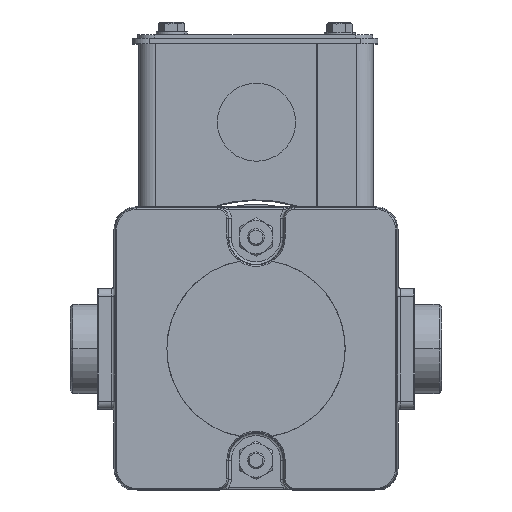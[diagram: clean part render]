
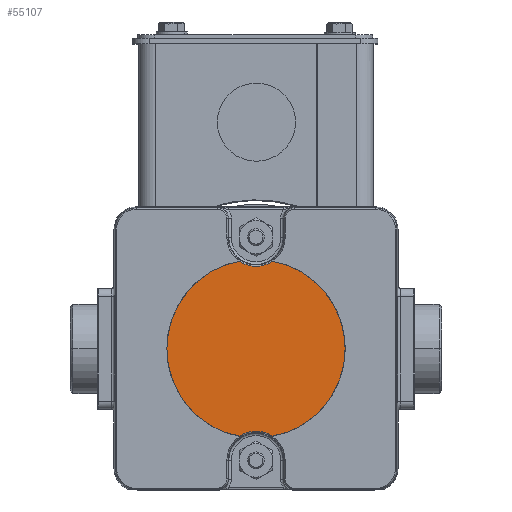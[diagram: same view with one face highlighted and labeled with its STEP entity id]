
A CAD part, top view. The second image highlights one B-rep face of the part: STEP entity #55107.
In plain terms, the highlighted planar face has unit normal (0, 0, 1).
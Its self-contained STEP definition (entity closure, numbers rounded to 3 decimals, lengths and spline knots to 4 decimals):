
#132 = DIRECTION ( 'NONE',  ( 1., 0., 0. ) ) ;
#972 = DIRECTION ( 'NONE',  ( 1., 0., 0. ) ) ;
#3466 = DIRECTION ( 'NONE',  ( 1., 0., 0. ) ) ;
#4057 = DIRECTION ( 'NONE',  ( 1., 0., 0. ) ) ;
#8350 = ORIENTED_EDGE ( 'NONE', *, *, #14171, .T. ) ;
#8956 = DIRECTION ( 'NONE',  ( 0., 0., -1. ) ) ;
#9539 = CARTESIAN_POINT ( 'NONE',  ( 0., 0., 9.4555 ) ) ;
#10705 = CARTESIAN_POINT ( 'NONE',  ( -0.1861, -0.9805, 9.4555 ) ) ;
#12573 = EDGE_CURVE ( 'NONE', #73153, #69365, #12687, .T. ) ;
#12687 = CIRCLE ( 'NONE', #27372, 0.3275 ) ;
#14171 = EDGE_CURVE ( 'NONE', #69365, #71252, #65148, .T. ) ;
#14537 = AXIS2_PLACEMENT_3D ( 'NONE', #33833, #39850, #132 ) ;
#14826 = DIRECTION ( 'NONE',  ( 0., 0., 1. ) ) ;
#21850 = ORIENTED_EDGE ( 'NONE', *, *, #73851, .T. ) ;
#24018 = CARTESIAN_POINT ( 'NONE',  ( 0., -1.25, 9.4555 ) ) ;
#25849 = DIRECTION ( 'NONE',  ( 1., 0., 0. ) ) ;
#26701 = FACE_OUTER_BOUND ( 'NONE', #35118, .T. ) ;
#27364 = AXIS2_PLACEMENT_3D ( 'NONE', #65520, #14826, #25849 ) ;
#27372 = AXIS2_PLACEMENT_3D ( 'NONE', #24018, #35287, #35761 ) ;
#28113 = CIRCLE ( 'NONE', #45128, 0.3275 ) ;
#29723 = CARTESIAN_POINT ( 'NONE',  ( 0., 0., 9.4555 ) ) ;
#30176 = PLANE ( 'NONE',  #69509 ) ;
#33833 = CARTESIAN_POINT ( 'NONE',  ( 0., 0., 9.4555 ) ) ;
#35118 = EDGE_LOOP ( 'NONE', ( #51962, #56679, #21850, #59706, #8350 ) ) ;
#35287 = DIRECTION ( 'NONE',  ( 0., 0., -1. ) ) ;
#35761 = DIRECTION ( 'NONE',  ( 1., 0., 0. ) ) ;
#35974 = VERTEX_POINT ( 'NONE', #47050 ) ;
#37695 = CARTESIAN_POINT ( 'NONE',  ( 0.1861, 0.9805, 9.4555 ) ) ;
#37797 = CIRCLE ( 'NONE', #27364, 0.998 ) ;
#38580 = CARTESIAN_POINT ( 'NONE',  ( -0.1861, 0.9805, 9.4555 ) ) ;
#39850 = DIRECTION ( 'NONE',  ( 0., 0., 1. ) ) ;
#41458 = DIRECTION ( 'NONE',  ( 0., 0., 1. ) ) ;
#42962 = CARTESIAN_POINT ( 'NONE',  ( 0., 1.25, 9.4555 ) ) ;
#45128 = AXIS2_PLACEMENT_3D ( 'NONE', #42962, #8956, #3466 ) ;
#47049 = VERTEX_POINT ( 'NONE', #38580 ) ;
#47050 = CARTESIAN_POINT ( 'NONE',  ( -0.998, 0., 9.4555 ) ) ;
#51962 = ORIENTED_EDGE ( 'NONE', *, *, #65395, .T. ) ;
#52966 = CARTESIAN_POINT ( 'NONE',  ( 0.1861, -0.9805, 9.4555 ) ) ;
#53036 = EDGE_CURVE ( 'NONE', #47049, #35974, #37797, .T. ) ;
#55107 = ADVANCED_FACE ( 'NONE', ( #26701 ), #30176, .T. ) ;
#55254 = CIRCLE ( 'NONE', #58611, 0.998 ) ;
#56679 = ORIENTED_EDGE ( 'NONE', *, *, #53036, .T. ) ;
#58611 = AXIS2_PLACEMENT_3D ( 'NONE', #9539, #73201, #4057 ) ;
#59706 = ORIENTED_EDGE ( 'NONE', *, *, #12573, .T. ) ;
#65148 = CIRCLE ( 'NONE', #14537, 0.998 ) ;
#65395 = EDGE_CURVE ( 'NONE', #71252, #47049, #28113, .T. ) ;
#65520 = CARTESIAN_POINT ( 'NONE',  ( 0., 0., 9.4555 ) ) ;
#69365 = VERTEX_POINT ( 'NONE', #52966 ) ;
#69509 = AXIS2_PLACEMENT_3D ( 'NONE', #29723, #41458, #972 ) ;
#71252 = VERTEX_POINT ( 'NONE', #37695 ) ;
#73153 = VERTEX_POINT ( 'NONE', #10705 ) ;
#73201 = DIRECTION ( 'NONE',  ( 0., 0., 1. ) ) ;
#73851 = EDGE_CURVE ( 'NONE', #35974, #73153, #55254, .T. ) ;
